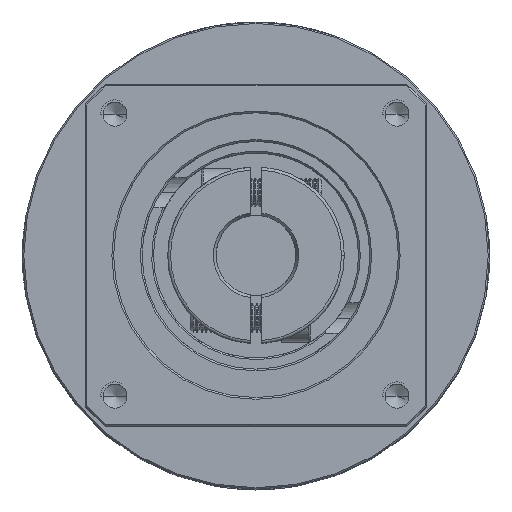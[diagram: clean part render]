
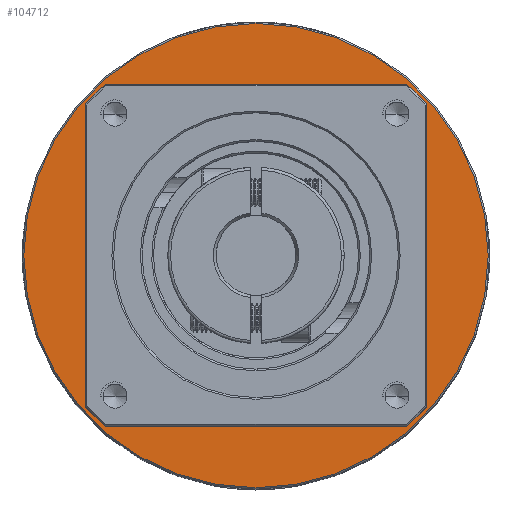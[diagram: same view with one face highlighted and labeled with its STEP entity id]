
A CAD part, top view. The second image highlights one B-rep face of the part: STEP entity #104712.
In plain terms, the highlighted planar face has unit normal (0, 0, 1).
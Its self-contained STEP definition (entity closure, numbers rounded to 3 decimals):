
#2925 = ORIENTED_EDGE ( 'NONE', *, *, #91884, .F. ) ;
#6629 = EDGE_CURVE ( 'NONE', #18200, #20133, #51273, .T. ) ;
#18200 = VERTEX_POINT ( 'NONE', #88176 ) ;
#20133 = VERTEX_POINT ( 'NONE', #113640 ) ;
#23392 = CIRCLE ( 'NONE', #68408, 30. ) ;
#23416 = EDGE_LOOP ( 'NONE', ( #34067, #100754 ) ) ;
#27264 = AXIS2_PLACEMENT_3D ( 'NONE', #99463, #41931, #109029 ) ;
#32592 = CARTESIAN_POINT ( 'NONE',  ( 14.548, 2.245, 34. ) ) ;
#34067 = ORIENTED_EDGE ( 'NONE', *, *, #105969, .T. ) ;
#37799 = AXIS2_PLACEMENT_3D ( 'NONE', #32592, #99770, #42240 ) ;
#39733 = AXIS2_PLACEMENT_3D ( 'NONE', #100978, #43480, #110561 ) ;
#41931 = DIRECTION ( 'NONE',  ( 0., 0., 1. ) ) ;
#42240 = DIRECTION ( 'NONE',  ( -1., 0., 0. ) ) ;
#43480 = DIRECTION ( 'NONE',  ( 0., 0., -1. ) ) ;
#47953 = DIRECTION ( 'NONE',  ( 0., 0., -1. ) ) ;
#51106 = FACE_OUTER_BOUND ( 'NONE', #58012, .T. ) ;
#51273 = CIRCLE ( 'NONE', #37799, 30. ) ;
#54178 = CARTESIAN_POINT ( 'NONE',  ( 14.548, 2.245, 34. ) ) ;
#58012 = EDGE_LOOP ( 'NONE', ( #124213, #2925 ) ) ;
#59373 = CIRCLE ( 'NONE', #39733, 40.75 ) ;
#63832 = DIRECTION ( 'NONE',  ( -1., 0., 0. ) ) ;
#68408 = AXIS2_PLACEMENT_3D ( 'NONE', #54178, #121160, #63832 ) ;
#76638 = FACE_BOUND ( 'NONE', #23416, .T. ) ;
#88098 = VERTEX_POINT ( 'NONE', #115757 ) ;
#88176 = CARTESIAN_POINT ( 'NONE',  ( 44.548, 2.245, 34. ) ) ;
#91884 = EDGE_CURVE ( 'NONE', #123108, #88098, #59373, .T. ) ;
#97889 = AXIS2_PLACEMENT_3D ( 'NONE', #105485, #47953, #115106 ) ;
#99463 = CARTESIAN_POINT ( 'NONE',  ( 14.548, 2.245, 34. ) ) ;
#99770 = DIRECTION ( 'NONE',  ( 0., 0., -1. ) ) ;
#100754 = ORIENTED_EDGE ( 'NONE', *, *, #6629, .T. ) ;
#100978 = CARTESIAN_POINT ( 'NONE',  ( 14.548, 2.245, 34. ) ) ;
#104712 = ADVANCED_FACE ( 'NONE', ( #51106, #76638 ), #118215, .T. ) ;
#105485 = CARTESIAN_POINT ( 'NONE',  ( 14.548, 2.245, 34. ) ) ;
#105969 = EDGE_CURVE ( 'NONE', #20133, #18200, #23392, .T. ) ;
#106573 = CIRCLE ( 'NONE', #97889, 40.75 ) ;
#108872 = EDGE_CURVE ( 'NONE', #88098, #123108, #106573, .T. ) ;
#109029 = DIRECTION ( 'NONE',  ( 1., 0., 0. ) ) ;
#110561 = DIRECTION ( 'NONE',  ( -1., 0., 0. ) ) ;
#113294 = CARTESIAN_POINT ( 'NONE',  ( 55.298, 2.245, 34. ) ) ;
#113640 = CARTESIAN_POINT ( 'NONE',  ( -15.452, 2.245, 34. ) ) ;
#115106 = DIRECTION ( 'NONE',  ( -1., 0., 0. ) ) ;
#115757 = CARTESIAN_POINT ( 'NONE',  ( -26.202, 2.245, 34. ) ) ;
#118215 = PLANE ( 'NONE',  #27264 ) ;
#121160 = DIRECTION ( 'NONE',  ( 0., 0., -1. ) ) ;
#123108 = VERTEX_POINT ( 'NONE', #113294 ) ;
#124213 = ORIENTED_EDGE ( 'NONE', *, *, #108872, .F. ) ;
